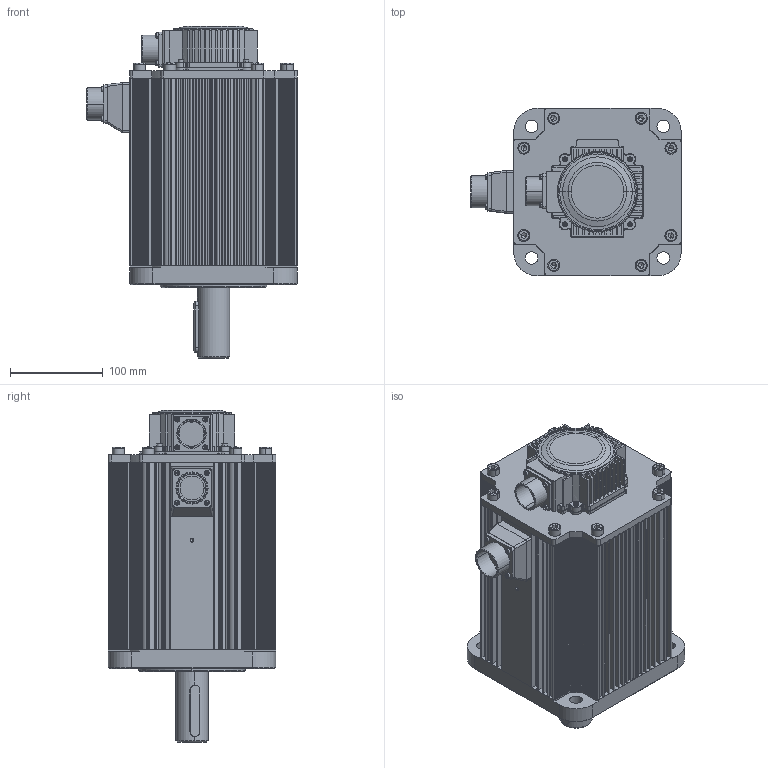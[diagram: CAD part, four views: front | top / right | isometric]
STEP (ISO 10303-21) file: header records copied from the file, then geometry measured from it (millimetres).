
FILE_DESCRIPTION (( 'STEP AP214' ), '1' );
FILE_NAME ('EMG-50.STEP', '2020-03-30T10:36:56', ( '' ), ( '' ), 'SwSTEP 2.0', 'SolidWorks 2018', '' );
FILE_SCHEMA (( 'AUTOMOTIVE_DESIGN' ));
Length unit declared in the file: millimetre
Products named in the file (60): hexagon socket head cap screws gb; 13; 11; 10; 12; 9; 7; 6; 5; 3; 1; 2; 4; EMG-50; hexagon socket head cap screws gb_GB_FASTENER_SCREWS_HSHCS M5X16-NHDA; hexagon socket head cap screws gb_GB_FASTENER_SCREWS_HSHCS M3X16-NHDA; hexagon socket head cap screws gb_GB_FASTENER_SCREWS_HSHCS M8X25-NHDA
Assembly tree (44 placements, depth 2):
  hexagon socket head cap screws gb
  hexagon socket head cap screws gb
  hexagon socket head cap screws gb
  hexagon socket head cap screws gb
  hexagon socket head cap screws gb
Bounding box: 226.1 x 180 x 357 mm (x, y, z)
Volume: 6013282.4 mm3; surface area: 685595.9 mm2
Topology: 44 solids, 46 shells, 3459 faces, 9085 edges, 5816 vertices
Faces by surface type: plane 1691, cylinder 1102, bspline 270, cone 262, torus 134
Entity records: 103095 total; most frequent: CARTESIAN_POINT 30576, ORIENTED_EDGE 14802, DIRECTION 13898, EDGE_CURVE 7401, VERTEX_POINT 4859, AXIS2_PLACEMENT_3D 4705, VECTOR 4488, LINE 4488
